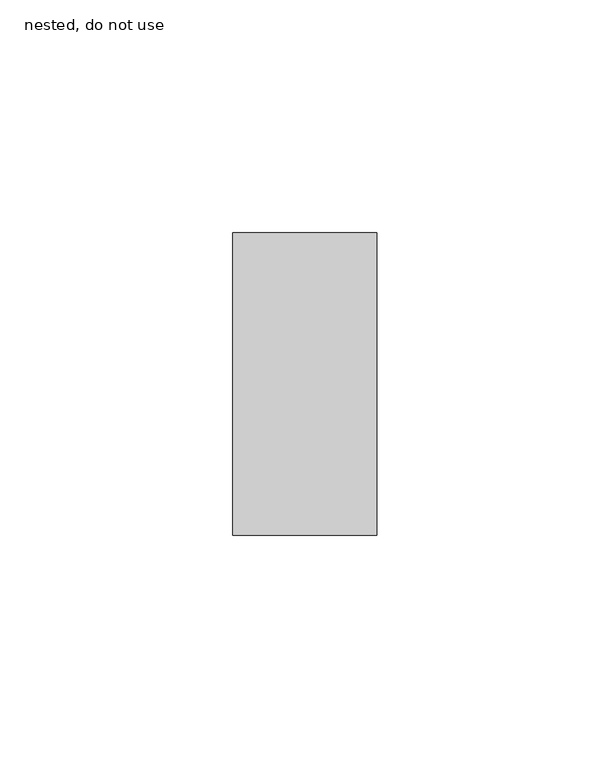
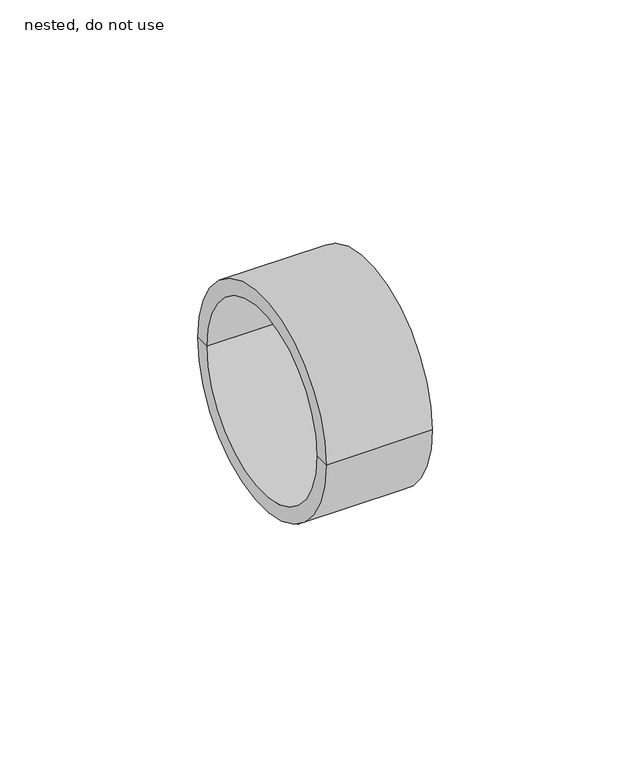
"""IFC4 building model written with IfcOpenShell, lengths in millimetres: pipe fitting geometry, NLRS_52_PIF_UN_Vacurain Flex borgbus_SH_Dyka : nested, do not use."""

from ifc_helpers import new_model, si_unit, frame, origin, place, context, project, spatial, polyline, circle_curve, source, transform, mapped, element, save
from ifc_brep_helpers import plane_surface, cylinder_surface, revolved_surface, advanced_brep


def nested_do_not_use_da8473c7(model_context):
    return source(origin(), model_context, "Body", "AdvancedBrep", [
        advanced_brep(
        [(-31.0, 32.5, 0.0), (-31.0, -32.5, 0.0), (-31.0, -28.0, 0.0), (-31.0, 28.0, 0.0), (0.0, 32.5, 0.0), (0.0, -32.5, 0.0), (0.0, 28.0, 0.0), (0.0, -28.0, 0.0)],
        [
            (0, 1, circle_curve(frame((-31.0, 0.0, 0.0), z_axis=(-1.0, 0.0, 0.0), x_axis=(0.0, -1.0, 0.0)), 32.5)),
            (1, 2),
            (2, 3, circle_curve(frame((-31.0, 0.0, 0.0), z_axis=(1.0, 0.0, 0.0), x_axis=(0.0, -1.0, 0.0)), 28.0)),
            (3, 0),
            (1, 0, circle_curve(frame((-31.0, 0.0, 0.0), z_axis=(-1.0, 0.0, 0.0), x_axis=(0.0, -1.0, 0.0)), 32.5)),
            (3, 2, circle_curve(frame((-31.0, 0.0, 0.0), z_axis=(1.0, 0.0, 0.0), x_axis=(0.0, -1.0, 0.0)), 28.0)),
            (4, 5, circle_curve(frame((0.0, 0.0, 0.0), z_axis=(-1.0, 0.0, 0.0), x_axis=(0.0, -1.0, 0.0)), 32.5)),
            (5, 1),
            (0, 4),
            (5, 4, circle_curve(frame((0.0, 0.0, 0.0), z_axis=(-1.0, 0.0, 0.0), x_axis=(0.0, -1.0, 0.0)), 32.5)),
            (6, 7, circle_curve(frame((0.0, 0.0, 0.0), z_axis=(-1.0, 0.0, 0.0), x_axis=(0.0, -1.0, 0.0)), 28.0)),
            (7, 5),
            (4, 6),
            (7, 6, circle_curve(frame((0.0, 0.0, 0.0), z_axis=(-1.0, 0.0, 0.0), x_axis=(0.0, -1.0, 0.0)), 28.0)),
            (2, 7),
            (6, 3),
        ],
        [
            plane_surface(frame((-31.0, 0.0, 0.0), z_axis=(-1.0, 0.0, 0.0), x_axis=(0.0, -1.0, 0.0))),
            cylinder_surface(frame((1955.5833127, 0.0, 0.0), z_axis=(1.0, 0.0, 0.0), x_axis=(0.0, -1.0, 0.0)), 32.5),
            plane_surface(frame((0.0, 0.0, 0.0), z_axis=(1.0, 0.0, 0.0), x_axis=(0.0, -1.0, 0.0))),
            revolved_surface(polyline([(0.0, -28.0, 0.0), (-31.0, -28.0, 0.0)]), (1955.5833127, 0.0, 0.0), (1.0, 0.0, 0.0)),
        ],
        [
            (0, [[1, 2, 3, 4]]),
            (0, [[5, -4, 6, -2]]),
            (1, [[7, 8, -1, 9]]),
            (1, [[10, -9, -5, -8]]),
            (2, [[11, 12, -7, 13]]),
            (2, [[14, -13, -10, -12]]),
            (3, [[-3, 15, -11, 16]]),
            (3, [[-6, -16, -14, -15]]),
        ],
    ),
    ])


if __name__ == "__main__":
    model = new_model("IFC4")
    model_context = context("Model", 3, world=origin())
    ifc_project = project(units=[si_unit("LENGTHUNIT", "METRE", prefix="MILLI")], contexts=[model_context])
    site = spatial("IfcSite", under=ifc_project)
    building = spatial("IfcBuilding", under=site)
    placement = place(None, origin())
    nested_do_not_use_shape = nested_do_not_use_da8473c7(model_context)
    element("IfcPipeFitting", 1, ObjectType="NLRS_52_PIF_UN_Vacurain Flex borgbus_SH_Dyka : nested, do not use", at=placement, inside=building, context=model_context, shape_type="MappedRepresentation", body=[
        mapped(nested_do_not_use_shape, transform((0.0, 0.0, 0.0), x_axis=(1.0, 0.0, 0.0), y_axis=(0.0, 1.0, 0.0), z_axis=(0.0, 0.0, 1.0))),
    ])
    save(model, "model.ifc")
